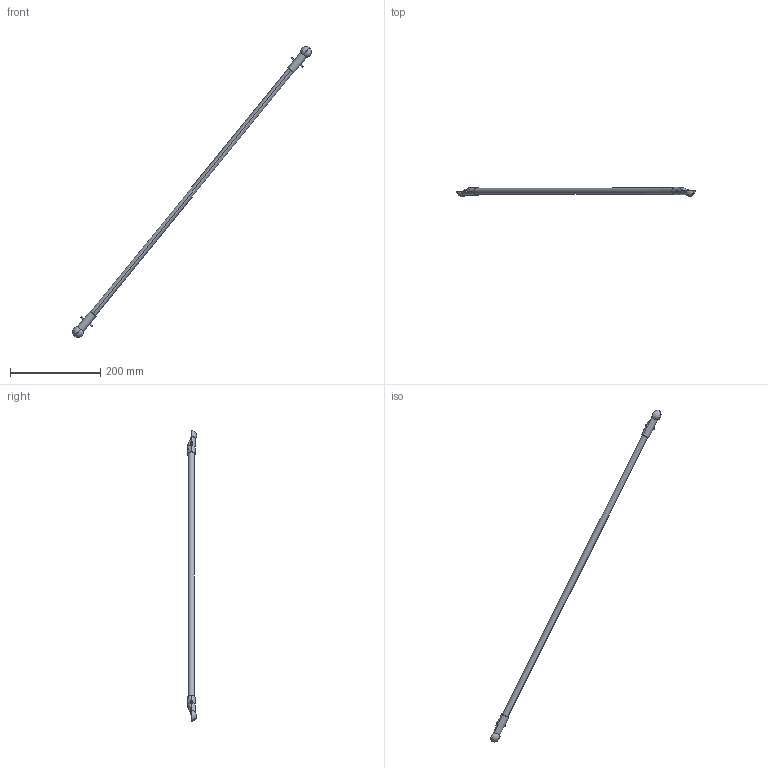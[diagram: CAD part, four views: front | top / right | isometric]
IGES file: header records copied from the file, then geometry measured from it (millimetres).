
Start section: SolidWorks IGES file using analytic representation for surfaces
Global section: file name: C:\Users\SELUHAA\Desktop\Work items\545792\IGES\IRB360_X-1130-STD-4D_rev03_IGES_J\IRB360_X-1130-STD-4D_rev03_LA1_1_CAD.IGS; native system: SolidWorks 2022; preprocessor: SolidWorks 2022; author: SELUHAA; date: 231204.084418; units: millimetre
Bounding box: 528.9 x 20.65 x 644.52 mm (x, y, z)
Surface area: 41260.7 mm2 (no closed solid volume)
Topology: 0 solids, 0 shells, 40 faces, 604 edges, 602 vertices
Faces by surface type: revolution 28, bspline 12
